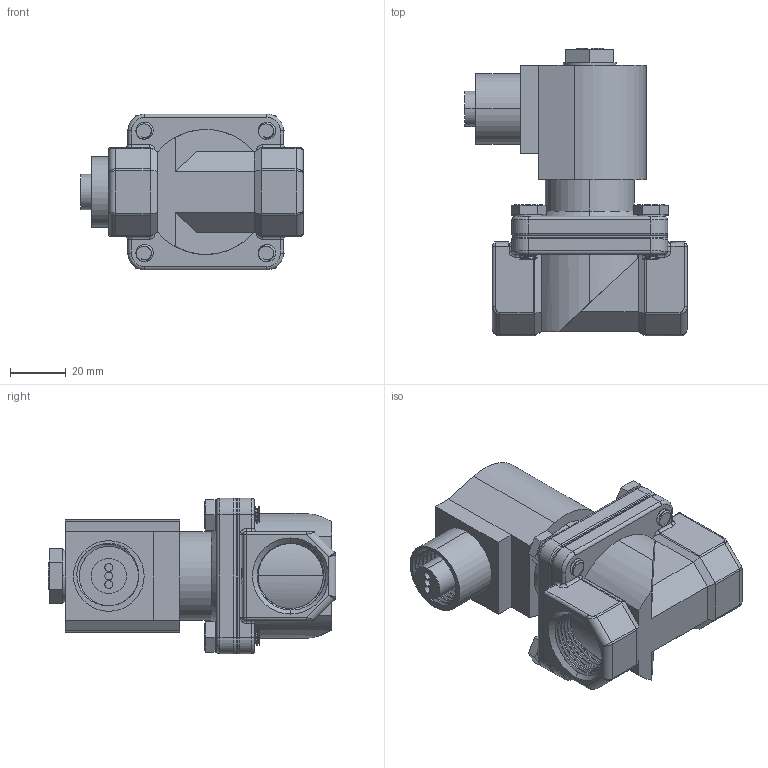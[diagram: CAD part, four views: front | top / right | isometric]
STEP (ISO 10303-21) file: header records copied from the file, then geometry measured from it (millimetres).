
FILE_DESCRIPTION (( 'STEP AP203' ), '1' );
FILE_NAME ('S201G_E.STEP', '2023-04-13T13:20:50', ( '' ), ( '' ), 'SwSTEP 2.0', 'SolidWorks 2023', '' );
FILE_SCHEMA (( 'CONFIG_CONTROL_DESIGN' ));
Length unit declared in the file: inch
Products named in the file (1): S201G_E
Bounding box: 79.91 x 103.5 x 56.01 mm (x, y, z)
Volume: 177986.2 mm3; surface area: 32425.1 mm2
Topology: 1 solids, 1 shells, 469 faces, 1209 edges, 755 vertices
Faces by surface type: plane 179, cylinder 171, bspline 71, torus 28, cone 16, sphere 4
Entity records: 34348 total; most frequent: CARTESIAN_POINT 23976, ORIENTED_EDGE 2394, DIRECTION 1878, EDGE_CURVE 1197, VERTEX_POINT 755, AXIS2_PLACEMENT_3D 674, LINE 530, VECTOR 530
